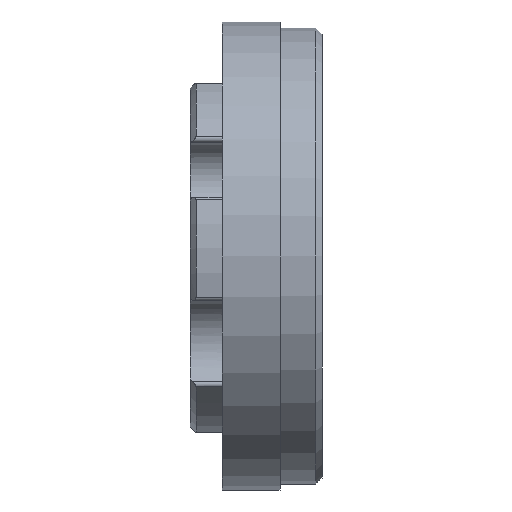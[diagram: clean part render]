
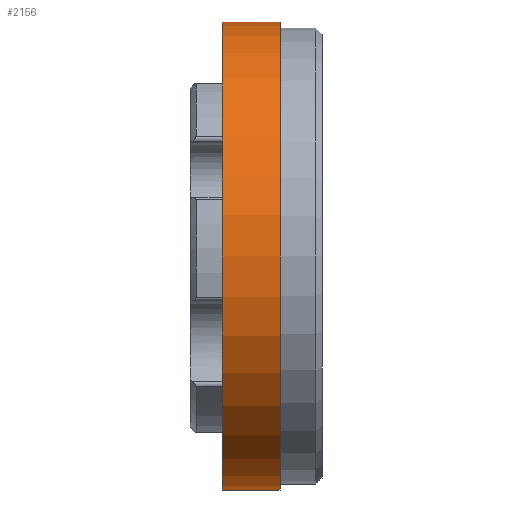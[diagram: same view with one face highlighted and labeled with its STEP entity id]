
A CAD part, left-side view. The second image highlights one B-rep face of the part: STEP entity #2156.
In plain terms, the highlighted cylindrical face has radius 19.5 mm (diameter 39 mm), a partial arc.
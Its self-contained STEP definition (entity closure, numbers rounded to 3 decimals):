
#225 = LINE ( 'NONE', #1523, #1390 ) ;
#257 = DIRECTION ( 'NONE',  ( 0., 0., -1. ) ) ;
#262 = LINE ( 'NONE', #535, #2203 ) ;
#366 = CIRCLE ( 'NONE', #1273, 19.5 ) ;
#420 = CARTESIAN_POINT ( 'NONE',  ( 0., 8.3, -19.5 ) ) ;
#424 = ORIENTED_EDGE ( 'NONE', *, *, #2036, .F. ) ;
#535 = CARTESIAN_POINT ( 'NONE',  ( 0., 0., 19.5 ) ) ;
#558 = VERTEX_POINT ( 'NONE', #420 ) ;
#609 = AXIS2_PLACEMENT_3D ( 'NONE', #860, #2003, #971 ) ;
#657 = ORIENTED_EDGE ( 'NONE', *, *, #2118, .F. ) ;
#727 = ORIENTED_EDGE ( 'NONE', *, *, #1083, .T. ) ;
#827 = EDGE_LOOP ( 'NONE', ( #657, #727, #946, #424 ) ) ;
#860 = CARTESIAN_POINT ( 'NONE',  ( 0., 0., 0. ) ) ;
#946 = ORIENTED_EDGE ( 'NONE', *, *, #1419, .T. ) ;
#971 = DIRECTION ( 'NONE',  ( 0., 0., -1. ) ) ;
#1026 = DIRECTION ( 'NONE',  ( 0., -1., 0. ) ) ;
#1048 = CARTESIAN_POINT ( 'NONE',  ( 0., 3.5, -19.5 ) ) ;
#1083 = EDGE_CURVE ( 'NONE', #1634, #558, #366, .T. ) ;
#1108 = FACE_OUTER_BOUND ( 'NONE', #827, .T. ) ;
#1132 = VERTEX_POINT ( 'NONE', #1048 ) ;
#1190 = DIRECTION ( 'NONE',  ( 0., 0., -1. ) ) ;
#1273 = AXIS2_PLACEMENT_3D ( 'NONE', #1505, #1852, #257 ) ;
#1306 = CYLINDRICAL_SURFACE ( 'NONE', #609, 19.5 ) ;
#1349 = DIRECTION ( 'NONE',  ( 0., -1., 0. ) ) ;
#1390 = VECTOR ( 'NONE', #1349, 1000. ) ;
#1419 = EDGE_CURVE ( 'NONE', #558, #1132, #225, .T. ) ;
#1505 = CARTESIAN_POINT ( 'NONE',  ( 0., 8.3, 0. ) ) ;
#1523 = CARTESIAN_POINT ( 'NONE',  ( 0., 0., -19.5 ) ) ;
#1590 = CARTESIAN_POINT ( 'NONE',  ( 0., 3.5, 0. ) ) ;
#1634 = VERTEX_POINT ( 'NONE', #1970 ) ;
#1765 = DIRECTION ( 'NONE',  ( 0., -1., 0. ) ) ;
#1818 = CARTESIAN_POINT ( 'NONE',  ( 0., 3.5, 19.5 ) ) ;
#1839 = VERTEX_POINT ( 'NONE', #1818 ) ;
#1852 = DIRECTION ( 'NONE',  ( 0., -1., 0. ) ) ;
#1934 = CIRCLE ( 'NONE', #2050, 19.5 ) ;
#1970 = CARTESIAN_POINT ( 'NONE',  ( 0., 8.3, 19.5 ) ) ;
#2003 = DIRECTION ( 'NONE',  ( 0., -1., 0. ) ) ;
#2036 = EDGE_CURVE ( 'NONE', #1839, #1132, #1934, .T. ) ;
#2050 = AXIS2_PLACEMENT_3D ( 'NONE', #1590, #1026, #1190 ) ;
#2118 = EDGE_CURVE ( 'NONE', #1634, #1839, #262, .T. ) ;
#2156 = ADVANCED_FACE ( 'NONE', ( #1108 ), #1306, .T. ) ;
#2203 = VECTOR ( 'NONE', #1765, 1000. ) ;
